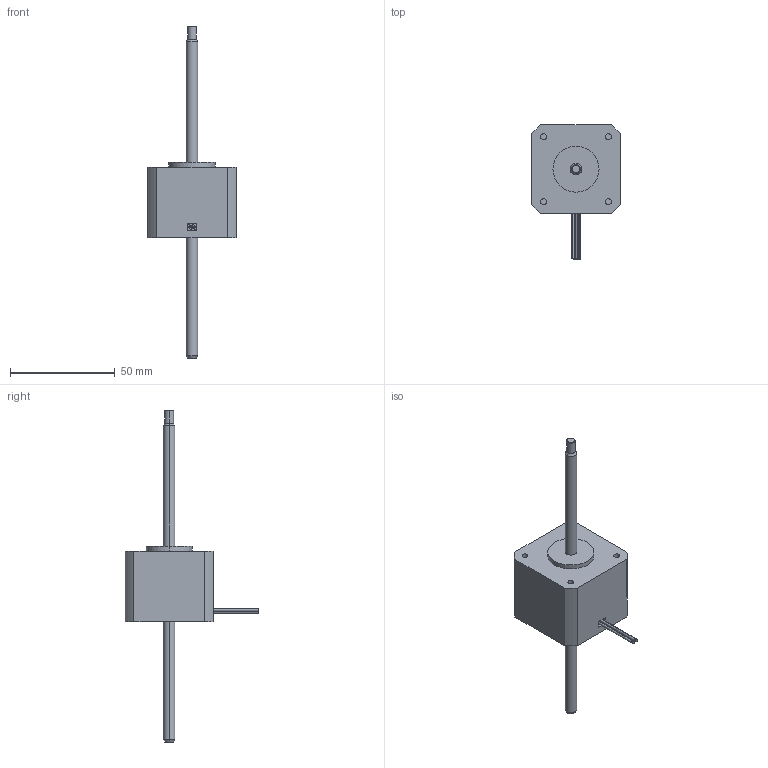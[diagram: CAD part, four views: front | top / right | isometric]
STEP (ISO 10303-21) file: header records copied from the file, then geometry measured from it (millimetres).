
FILE_DESCRIPTION (( 'STEP AP214' ), '1' );
FILE_NAME ('AMETEK-43F4N-2.33-6-12-PTFE-M3.STEP', '2022-02-28T12:14:17', ( '' ), ( '' ), 'SwSTEP 2.0', 'SolidWorks 2021', '' );
FILE_SCHEMA (( 'AUTOMOTIVE_DESIGN' ));
Length unit declared in the file: inch
Products named in the file (3): 43000_Non_Captive_Screw; 43000_Non_Captive_None; AMETEK-43F4N-2.33-6-12-PTFE-M3
Assembly tree (2 placements, depth 2):
  AMETEK-43F4N-2.33-6-12-PTFE-M3
    43000_Non_Captive_None
    43000_Non_Captive_Screw
Bounding box: 42.2 x 64.03 x 158.75 mm (x, y, z)
Volume: 62700.5 mm3; surface area: 12969.4 mm2
Topology: 2 solids, 2 shells, 59 faces, 124 edges, 80 vertices
Faces by surface type: cylinder 30, plane 23, cone 6
Entity records: 2168 total; most frequent: DIRECTION 316, CARTESIAN_POINT 268, ORIENTED_EDGE 248, AXIS2_PLACEMENT_3D 128, EDGE_CURVE 124, VERTEX_POINT 80, EDGE_LOOP 72, CIRCLE 64
